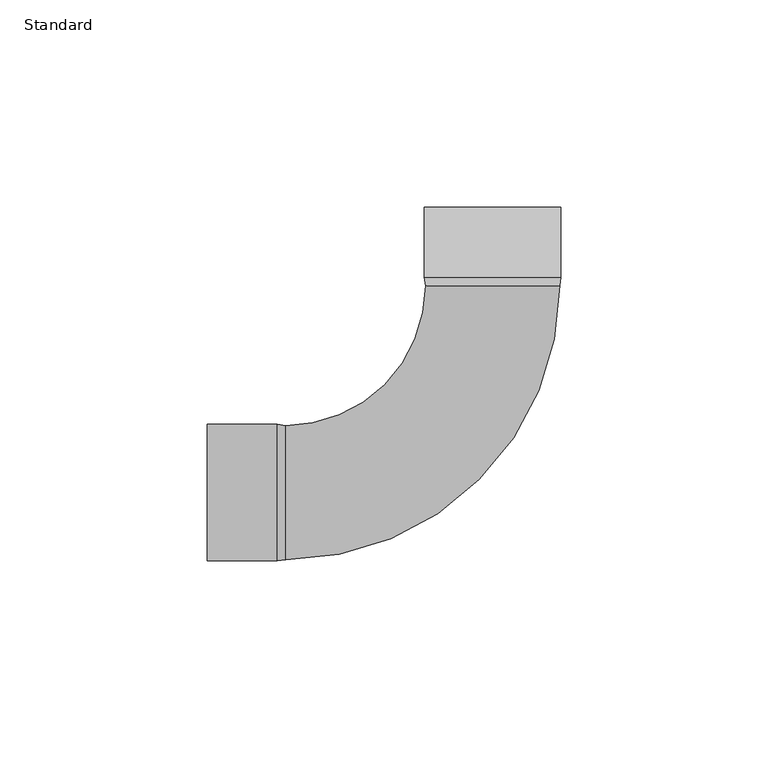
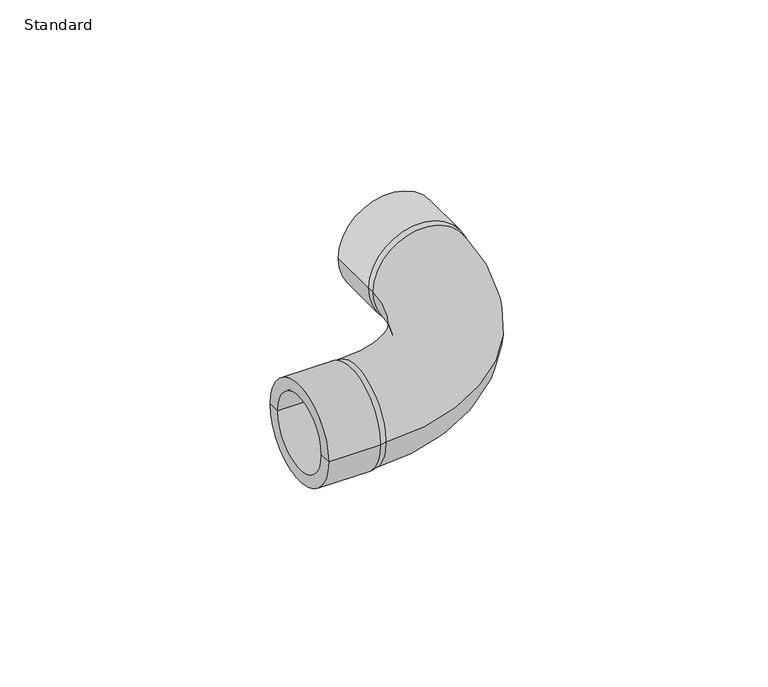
"""IFC4 building model written with IfcOpenShell, lengths in millimetres: pipe fitting geometry, Durapipe_PipeFitting_PVC_SR_Bend90deg : Standard."""

from ifc_helpers import new_model, si_unit, point, frame, origin, place, context, project, spatial, polyline, circle_curve, ellipse_curve, trimmed, source, transform, mapped, element, save
from ifc_brep_helpers import plane_surface, cylinder_surface, revolved_surface, advanced_brep


def standard_3f4e5612(model_context):
    return source(origin(), model_context, "Body", "AdvancedBrep", [
        advanced_brep(
        [(16.5, 52.0, 0.0), (-16.5, 52.0, 0.0), (-16.5, 69.0, 0.0), (16.5, 69.0, 0.0), (16.2, 50.0, 0.0), (11.4551299, 50.0, -11.4551299), (0.0, 50.0, -16.2), (-11.4551299, 50.0, -11.4551299), (-16.2, 50.0, 0.0), (-11.4551299, 50.0, 11.4551299), (0.0, 50.0, 16.2), (11.4551299, 50.0, 11.4551299), (-12.5, 69.0, 0.0), (12.5, 69.0, 0.0), (-50.0, 16.2, 0.0), (-50.0, -16.2, 0.0), (-69.0, -12.5, 0.0), (-69.0, 12.5, 0.0), (-69.0, 16.5, 0.0), (-69.0, -16.5, 0.0), (-52.0, -16.5, 0.0), (-52.0, 16.5, 0.0), (-52.0, -12.5, 0.0), (-52.0, 12.5, 0.0), (-52.0, 0.0, 0.0), (12.5, 52.0, 0.0), (-12.5, 52.0, 0.0), (0.0, 52.0, 0.0)],
        [
            (0, 1, circle_curve(frame((0.0, 52.0, 0.0), z_axis=(0.0, 1.0, 0.0), x_axis=(-1.0, 0.0, 0.0)), 16.5)),
            (1, 2),
            (2, 3, circle_curve(frame((0.0, 69.0, 0.0), z_axis=(0.0, -1.0, 0.0), x_axis=(-1.0, 0.0, 0.0)), 16.5)),
            (3, 0),
            (1, 0, circle_curve(frame((0.0, 52.0, 0.0), z_axis=(0.0, 1.0, 0.0), x_axis=(-1.0, 0.0, 0.0)), 16.5)),
            (3, 2, circle_curve(frame((0.0, 69.0, 0.0), z_axis=(0.0, -1.0, 0.0), x_axis=(-1.0, 0.0, 0.0)), 16.5)),
            (0, 4),
            (4, 5, circle_curve(frame((0.0, 50.0, 0.0), z_axis=(0.0, 1.0, 0.0), x_axis=(-1.0, 0.0, 0.0)), 16.2)),
            (5, 6, circle_curve(frame((0.0, 50.0, 0.0), z_axis=(0.0, 1.0, 0.0), x_axis=(-1.0, 0.0, 0.0)), 16.2)),
            (6, 7, circle_curve(frame((0.0, 50.0, 0.0), z_axis=(0.0, 1.0, 0.0), x_axis=(-1.0, 0.0, 0.0)), 16.2)),
            (7, 8, circle_curve(frame((0.0, 50.0, 0.0), z_axis=(0.0, 1.0, 0.0), x_axis=(-1.0, 0.0, 0.0)), 16.2)),
            (8, 1),
            (8, 9, circle_curve(frame((0.0, 50.0, 0.0), z_axis=(0.0, 1.0, 0.0), x_axis=(-1.0, 0.0, 0.0)), 16.2)),
            (9, 10, circle_curve(frame((0.0, 50.0, 0.0), z_axis=(0.0, 1.0, 0.0), x_axis=(-1.0, 0.0, 0.0)), 16.2)),
            (10, 11, circle_curve(frame((0.0, 50.0, 0.0), z_axis=(0.0, 1.0, 0.0), x_axis=(-1.0, 0.0, 0.0)), 16.2)),
            (11, 4, circle_curve(frame((0.0, 50.0, 0.0), z_axis=(0.0, 1.0, 0.0), x_axis=(-1.0, 0.0, 0.0)), 16.2)),
            (2, 12),
            (12, 13, circle_curve(frame((0.0, 69.0, 0.0), z_axis=(0.0, -1.0, 0.0), x_axis=(-1.0, 0.0, 0.0)), 12.5)),
            (13, 3),
            (13, 12, circle_curve(frame((0.0, 69.0, 0.0), z_axis=(0.0, -1.0, 0.0), x_axis=(-1.0, 0.0, 0.0)), 12.5)),
            (8, 14, circle_curve(frame((-50.0, 50.0, 0.0), z_axis=(0.0, 0.0, -1.0), x_axis=(0.0, -1.0, 0.0)), 33.8)),
            (14, 15, circle_curve(frame((-50.0, 0.0, 0.0), z_axis=(1.0, 0.0, 0.0), x_axis=(0.0, 1.0, 0.0)), 16.2)),
            (15, 4, circle_curve(frame((-50.0, 50.0, 0.0), z_axis=(0.0, 0.0, 1.0), x_axis=(0.0, -1.0, 0.0)), 66.2)),
            (15, 14, circle_curve(frame((-50.0, 0.0, 0.0), z_axis=(1.0, 0.0, 0.0), x_axis=(0.0, 1.0, 0.0)), 16.2)),
            (16, 17, circle_curve(frame((-69.0, 0.0, 0.0), z_axis=(1.0, 0.0, 0.0), x_axis=(0.0, 1.0, 0.0)), 12.5)),
            (17, 18),
            (18, 19, circle_curve(frame((-69.0, 0.0, 0.0), z_axis=(-1.0, 0.0, 0.0), x_axis=(0.0, 1.0, 0.0)), 16.5)),
            (19, 16),
            (17, 16, circle_curve(frame((-69.0, 0.0, 0.0), z_axis=(1.0, 0.0, 0.0), x_axis=(0.0, 1.0, 0.0)), 12.5)),
            (19, 18, circle_curve(frame((-69.0, 0.0, 0.0), z_axis=(-1.0, 0.0, 0.0), x_axis=(0.0, 1.0, 0.0)), 16.5)),
            (20, 21, circle_curve(frame((-52.0, 0.0, 0.0), z_axis=(1.0, 0.0, 0.0), x_axis=(0.0, 1.0, 0.0)), 16.5)),
            (21, 14),
            (15, 20),
            (21, 20, circle_curve(frame((-52.0, 0.0, 0.0), z_axis=(1.0, 0.0, 0.0), x_axis=(0.0, 1.0, 0.0)), 16.5)),
            (18, 21),
            (20, 19),
            (16, 22),
            (22, 23, circle_curve(frame((-52.0, 0.0, 0.0), z_axis=(1.0, 0.0, 0.0), x_axis=(0.0, 1.0, 0.0)), 12.5)),
            (23, 17),
            (23, 22, circle_curve(frame((-52.0, 0.0, 0.0), z_axis=(1.0, 0.0, 0.0), x_axis=(0.0, 1.0, 0.0)), 12.5)),
            (22, 24),
            (24, 23),
            (25, 26, circle_curve(frame((0.0, 52.0, 0.0), z_axis=(0.0, 1.0, 0.0), x_axis=(-1.0, 0.0, 0.0)), 12.5)),
            (26, 27),
            (27, 25),
            (26, 25, circle_curve(frame((0.0, 52.0, 0.0), z_axis=(0.0, 1.0, 0.0), x_axis=(-1.0, 0.0, 0.0)), 12.5)),
            (12, 26),
            (25, 13),
        ],
        [
            cylinder_surface(frame((0.0, 2012.0, 0.0), z_axis=(0.0, -1.0, 0.0), x_axis=(-1.0, 0.0, 0.0)), 16.5),
            revolved_surface(polyline([(-16.5, 52.0, 0.0), (-16.2, 50.0, 0.0)]), (0.0, 2012.0, 0.0), (0.0, -1.0, 0.0)),
            plane_surface(frame((0.0, 69.0, 0.0), z_axis=(0.0, 1.0, 0.0), x_axis=(-1.0, 0.0, 0.0))),
            revolved_surface(trimmed(ellipse_curve(frame((-50.0, 0.0, 0.0), z_axis=(-1.0, 0.0, 0.0), x_axis=(0.0, 1.0, 0.0)), 16.2, 16.2), [point((-50.0, -16.2, 0.0))], [point((-50.0, 16.2, 0.0))], True, "CARTESIAN"), (-50.0, 50.0, 0.0), (0.0, 0.0, 1.0)),
            revolved_surface(trimmed(ellipse_curve(frame((-50.0, 0.0, 0.0), z_axis=(-1.0, 0.0, 0.0), x_axis=(0.0, 1.0, 0.0)), 16.2, 16.2), [point((-50.0, 16.2, 0.0))], [point((-50.0, -16.2, 0.0))], True, "CARTESIAN"), (-50.0, 50.0, 0.0), (0.0, 0.0, 1.0)),
            plane_surface(frame((-69.0, 0.0, 0.0), z_axis=(-1.0, 0.0, 0.0), x_axis=(0.0, 1.0, 0.0))),
            revolved_surface(polyline([(-50.0, 16.2, 0.0), (-52.0, 16.5, 0.0)]), (2003.5, 0.0, 0.0), (-1.0, 0.0, 0.0)),
            cylinder_surface(frame((2003.5, 0.0, 0.0), z_axis=(-1.0, 0.0, 0.0), x_axis=(0.0, 1.0, 0.0)), 16.5),
            revolved_surface(polyline([(-69.0, 12.5, 0.0), (-52.0, 12.5, 0.0)]), (2003.5, 0.0, 0.0), (-1.0, 0.0, 0.0)),
            plane_surface(frame((-52.0, 0.0, 0.0), z_axis=(-1.0, 0.0, 0.0), x_axis=(0.0, 1.0, 0.0))),
            plane_surface(frame((0.0, 52.0, 0.0), z_axis=(0.0, 1.0, 0.0), x_axis=(-1.0, 0.0, 0.0))),
            revolved_surface(polyline([(-12.5, 52.0, 0.0), (-12.5, 69.0, 0.0)]), (0.0, 2012.0, 0.0), (0.0, -1.0, 0.0)),
        ],
        [
            (0, [[1, 2, 3, 4]]),
            (0, [[-2, 5, -4, 6]]),
            (1, [[-1, 7, 8, 9, 10, 11, 12]]),
            (1, [[-5, -12, 13, 14, 15, 16, -7]]),
            (2, [[-3, 17, 18, 19]]),
            (2, [[-6, -19, 20, -17]]),
            (3, [[21, 22, 23, -16, -15, -14, -13]]),
            (4, [[-21, -11, -10, -9, -8, -23, 24]]),
            (5, [[25, 26, 27, 28]]),
            (5, [[-26, 29, -28, 30]]),
            (6, [[31, 32, -24, 33]]),
            (6, [[-32, 34, -33, -22]]),
            (7, [[-27, 35, -31, 36]]),
            (7, [[-30, -36, -34, -35]]),
            (8, [[-25, 37, 38, 39]]),
            (8, [[-29, -39, 40, -37]]),
            (9, [[-38, 41, 42]]),
            (9, [[-40, -42, -41]]),
            (10, [[43, 44, 45]]),
            (10, [[-44, 46, -45]]),
            (11, [[-18, 47, -43, 48]]),
            (11, [[-20, -48, -46, -47]]),
        ],
    ),
    ])


if __name__ == "__main__":
    model = new_model("IFC4")
    model_context = context("Model", 3, world=origin())
    ifc_project = project(units=[si_unit("LENGTHUNIT", "METRE", prefix="MILLI")], contexts=[model_context])
    site = spatial("IfcSite", under=ifc_project)
    building = spatial("IfcBuilding", under=site)
    placement = place(None, origin())
    standard_shape = standard_3f4e5612(model_context)
    element("IfcPipeFitting", 1, ObjectType="Durapipe_PipeFitting_PVC_SR_Bend90deg : Standard", at=placement, inside=building, context=model_context, shape_type="MappedRepresentation", body=[
        mapped(standard_shape, transform((0.0, 0.0, 0.0), x_axis=(1.0, 0.0, 0.0), y_axis=(0.0, 1.0, 0.0), z_axis=(0.0, 0.0, 1.0))),
    ])
    save(model, "model.ifc")
